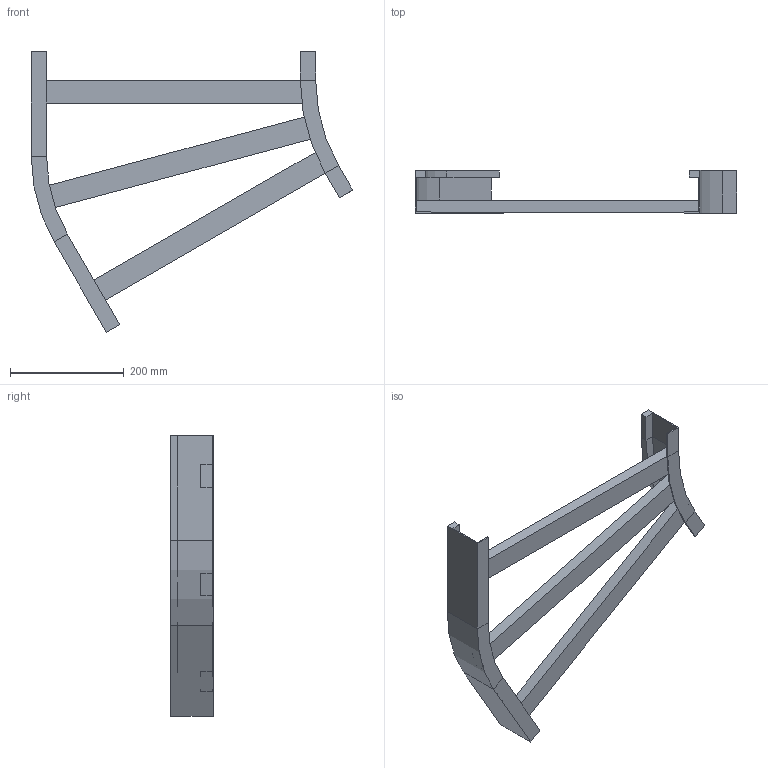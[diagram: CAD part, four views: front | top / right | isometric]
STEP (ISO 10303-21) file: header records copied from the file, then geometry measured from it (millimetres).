
FILE_DESCRIPTION (( 'STEP AP214' ), '1' );
FILE_NAME ('B2_12B3C500.step', '2025-02-21T15:11:18', ( '' ), ( '' ), 'SwSTEP 2.0', 'SolidWorks 2023', '' );
FILE_SCHEMA (( 'AUTOMOTIVE_DESIGN' ));
Length unit declared in the file: millimetre
Products named in the file (5): TRAVERSINO_L513; B2_LONGH.ESTERNO 30°_H75_R300+500; B2_12B3C500; B2_LONGH.INTERNO 30°_H75_R300; TRAVERSINO_500
Assembly tree (5 placements, depth 2):
  B2_12B3C500
    B2_LONGH.INTERNO 30°_H75_R300
    B2_LONGH.ESTERNO 30°_H75_R300+500
    TRAVERSINO_500  x2
    TRAVERSINO_L513
Bounding box: 565.19 x 75 x 493.3 mm (x, y, z)
Volume: 1525636.5 mm3; surface area: 373110.6 mm2
Topology: 5 solids, 5 shells, 70 faces, 148 edges, 88 vertices
Faces by surface type: plane 62, cylinder 8
Entity records: 1822 total; most frequent: DIRECTION 296, CARTESIAN_POINT 288, ORIENTED_EDGE 272, EDGE_CURVE 136, VECTOR 120, LINE 120, AXIS2_PLACEMENT_3D 88, VERTEX_POINT 80
